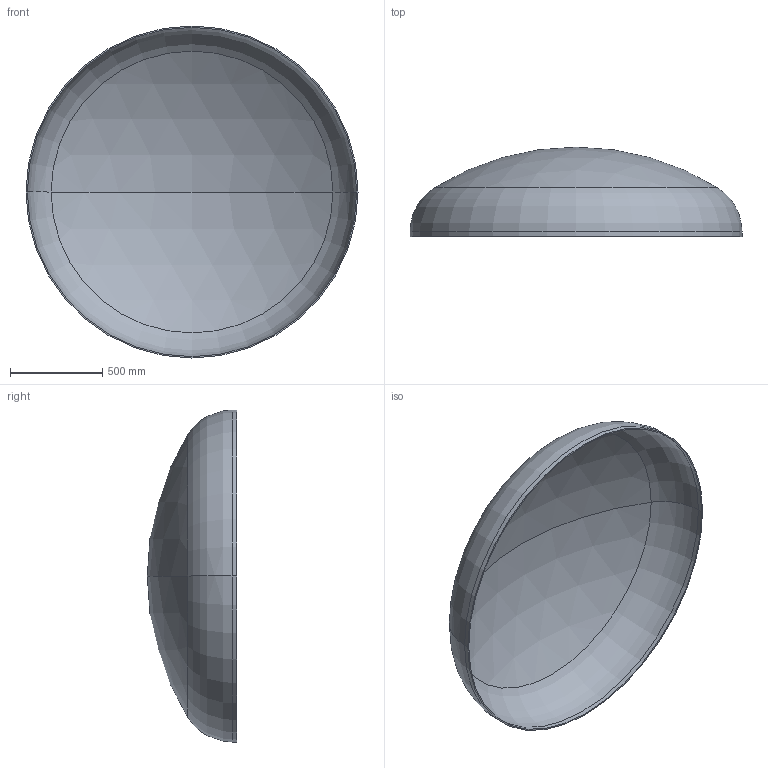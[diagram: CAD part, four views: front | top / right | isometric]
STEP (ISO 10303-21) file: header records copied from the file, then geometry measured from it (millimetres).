
FILE_DESCRIPTION (( 'STEP AP203' ), '1' );
FILE_NAME ('DIN 28013 Korbbogenform_-_Boden DIN 28013 - 1800 x 25 - I - s=7.step', '2016-07-01T12:15:04', ( '' ), ( '' ), 'SwSTEP 2.0', 'SolidWorks 2013', '' );
FILE_SCHEMA (( 'CONFIG_CONTROL_DESIGN' ));
Length unit declared in the file: millimetre
Products named in the file (1): DIN 28013 Korbbogenform_-_Boden DIN 28013 - 1800 x 25 - I - s=7
Bounding box: 1800 x 484.43 x 1800 mm (x, y, z)
Volume: 25493174.6 mm3; surface area: 7323294 mm2
Topology: 1 solids, 1 shells, 13 faces, 24 edges, 14 vertices
Faces by surface type: torus 4, cylinder 4, sphere 4, plane 1
Entity records: 407 total; most frequent: DIRECTION 72, CARTESIAN_POINT 52, ORIENTED_EDGE 48, AXIS2_PLACEMENT_3D 34, EDGE_CURVE 24, CIRCLE 20, VERTEX_POINT 14, EDGE_LOOP 14
